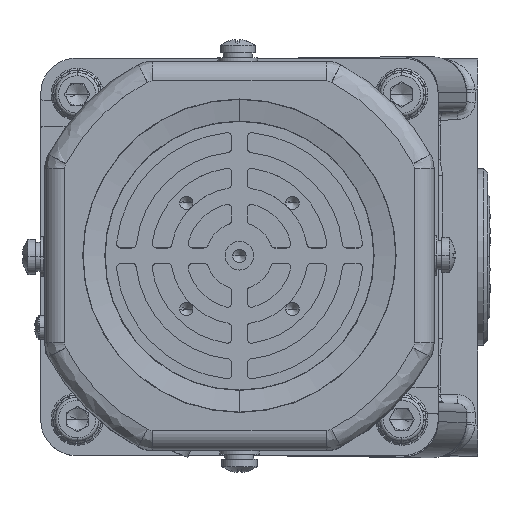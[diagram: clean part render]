
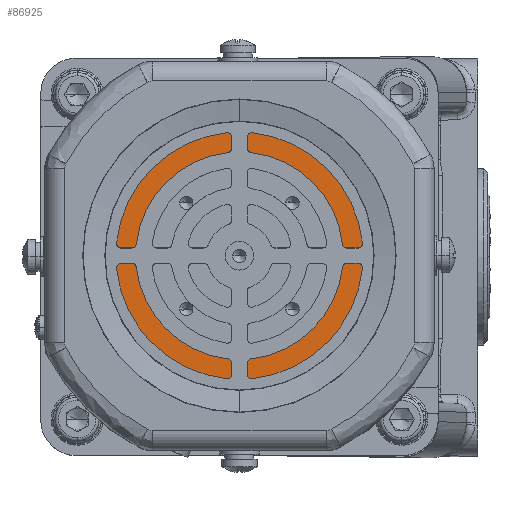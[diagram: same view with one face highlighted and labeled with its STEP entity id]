
A CAD part, top view. The second image highlights one B-rep face of the part: STEP entity #86925.
In plain terms, the highlighted planar face has unit normal (0, 0, 1) as drawn and (-1, 0, 0) by its records, which use the part's own axes.
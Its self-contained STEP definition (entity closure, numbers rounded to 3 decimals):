
#301 = AXIS2_PLACEMENT_3D ( 'NONE', #1428, #51409, #8697 ) ;
#409 = ORIENTED_EDGE ( 'NONE', *, *, #90431, .T. ) ;
#1428 = CARTESIAN_POINT ( 'NONE',  ( -36.344, -0.714, 161.806 ) ) ;
#3531 = DIRECTION ( 'NONE',  ( 0., 0., 1. ) ) ;
#4443 = AXIS2_PLACEMENT_3D ( 'NONE', #62787, #62691, #62671 ) ;
#4850 = EDGE_LOOP ( 'NONE', ( #409, #39343 ) ) ;
#5201 = CIRCLE ( 'NONE', #4443, 29. ) ;
#5522 = CIRCLE ( 'NONE', #38423, 22. ) ;
#6278 = CIRCLE ( 'NONE', #75331, 1.5 ) ;
#7408 = DIRECTION ( 'NONE',  ( 1., 0., 0. ) ) ;
#8697 = DIRECTION ( 'NONE',  ( 0., 0., 1. ) ) ;
#10301 = ORIENTED_EDGE ( 'NONE', *, *, #13909, .T. ) ;
#10705 = ORIENTED_EDGE ( 'NONE', *, *, #18131, .T. ) ;
#11975 = EDGE_CURVE ( 'NONE', #76945, #71509, #86737, .T. ) ;
#12759 = FACE_BOUND ( 'NONE', #4850, .T. ) ;
#13156 = ORIENTED_EDGE ( 'NONE', *, *, #62807, .T. ) ;
#13555 = ORIENTED_EDGE ( 'NONE', *, *, #11975, .T. ) ;
#13909 = EDGE_CURVE ( 'NONE', #71509, #76945, #5522, .T. ) ;
#13934 = AXIS2_PLACEMENT_3D ( 'NONE', #31997, #80778, #39127 ) ;
#14363 = AXIS2_PLACEMENT_3D ( 'NONE', #79809, #38100, #86529 ) ;
#14879 = CIRCLE ( 'NONE', #301, 1.5 ) ;
#16372 = AXIS2_PLACEMENT_3D ( 'NONE', #30078, #78981, #37243 ) ;
#18131 = EDGE_CURVE ( 'NONE', #85626, #30823, #5201, .T. ) ;
#30078 = CARTESIAN_POINT ( 'NONE',  ( -36.344, -0.714, 188.806 ) ) ;
#30823 = VERTEX_POINT ( 'NONE', #47908 ) ;
#31997 = CARTESIAN_POINT ( 'NONE',  ( -36.344, -0.714, 215.806 ) ) ;
#32202 = VERTEX_POINT ( 'NONE', #82992 ) ;
#34477 = VERTEX_POINT ( 'NONE', #51219 ) ;
#35717 = EDGE_LOOP ( 'NONE', ( #79970, #10705 ) ) ;
#35916 = CARTESIAN_POINT ( 'NONE',  ( -36.344, -0.714, 214.306 ) ) ;
#37243 = DIRECTION ( 'NONE',  ( 0., 0., 1. ) ) ;
#38100 = DIRECTION ( 'NONE',  ( -1., 0., 0. ) ) ;
#38423 = AXIS2_PLACEMENT_3D ( 'NONE', #63074, #62990, #62977 ) ;
#39127 = DIRECTION ( 'NONE',  ( 0., 0., 1. ) ) ;
#39343 = ORIENTED_EDGE ( 'NONE', *, *, #70560, .T. ) ;
#39634 = CARTESIAN_POINT ( 'NONE',  ( -36.344, -0.714, 166.806 ) ) ;
#42336 = CARTESIAN_POINT ( 'NONE',  ( -36.344, -0.714, 160.306 ) ) ;
#42489 = EDGE_LOOP ( 'NONE', ( #13156, #59617 ) ) ;
#44312 = EDGE_CURVE ( 'NONE', #77833, #34477, #6278, .T. ) ;
#46413 = DIRECTION ( 'NONE',  ( 1., 0., 0. ) ) ;
#47908 = CARTESIAN_POINT ( 'NONE',  ( -36.344, -0.714, 217.806 ) ) ;
#50169 = CARTESIAN_POINT ( 'NONE',  ( -36.344, -0.714, 215.806 ) ) ;
#50656 = FACE_BOUND ( 'NONE', #59101, .T. ) ;
#51219 = CARTESIAN_POINT ( 'NONE',  ( -36.344, -0.714, 163.306 ) ) ;
#51409 = DIRECTION ( 'NONE',  ( 1., 0., 0. ) ) ;
#53150 = CIRCLE ( 'NONE', #16372, 29. ) ;
#56748 = AXIS2_PLACEMENT_3D ( 'NONE', #87944, #87836, #87747 ) ;
#57227 = DIRECTION ( 'NONE',  ( 0., 0., 1. ) ) ;
#58772 = CARTESIAN_POINT ( 'NONE',  ( -36.344, -0.714, 159.806 ) ) ;
#59101 = EDGE_LOOP ( 'NONE', ( #13555, #10301 ) ) ;
#59617 = ORIENTED_EDGE ( 'NONE', *, *, #44312, .T. ) ;
#61633 = VERTEX_POINT ( 'NONE', #35916 ) ;
#62671 = DIRECTION ( 'NONE',  ( 0., 0., 1. ) ) ;
#62691 = DIRECTION ( 'NONE',  ( -1., 0., 0. ) ) ;
#62787 = CARTESIAN_POINT ( 'NONE',  ( -36.344, -0.714, 188.806 ) ) ;
#62807 = EDGE_CURVE ( 'NONE', #34477, #77833, #14879, .T. ) ;
#62977 = DIRECTION ( 'NONE',  ( 0., 0., 1. ) ) ;
#62990 = DIRECTION ( 'NONE',  ( 1., 0., 0. ) ) ;
#63074 = CARTESIAN_POINT ( 'NONE',  ( -36.344, -0.714, 188.806 ) ) ;
#64570 = CARTESIAN_POINT ( 'NONE',  ( -36.344, -0.714, 210.806 ) ) ;
#67127 = FACE_OUTER_BOUND ( 'NONE', #35717, .T. ) ;
#69311 = FACE_BOUND ( 'NONE', #42489, .T. ) ;
#70560 = EDGE_CURVE ( 'NONE', #61633, #32202, #76546, .T. ) ;
#71509 = VERTEX_POINT ( 'NONE', #39634 ) ;
#72932 = PLANE ( 'NONE',  #14363 ) ;
#74365 = CIRCLE ( 'NONE', #13934, 1.5 ) ;
#75331 = AXIS2_PLACEMENT_3D ( 'NONE', #87840, #46413, #3531 ) ;
#76546 = CIRCLE ( 'NONE', #77345, 1.5 ) ;
#76945 = VERTEX_POINT ( 'NONE', #64570 ) ;
#77345 = AXIS2_PLACEMENT_3D ( 'NONE', #50169, #7408, #57227 ) ;
#77417 = EDGE_CURVE ( 'NONE', #30823, #85626, #53150, .T. ) ;
#77833 = VERTEX_POINT ( 'NONE', #42336 ) ;
#78981 = DIRECTION ( 'NONE',  ( -1., 0., 0. ) ) ;
#79809 = CARTESIAN_POINT ( 'NONE',  ( -36.344, 21.286, 188.806 ) ) ;
#79970 = ORIENTED_EDGE ( 'NONE', *, *, #77417, .T. ) ;
#80778 = DIRECTION ( 'NONE',  ( 1., 0., 0. ) ) ;
#82992 = CARTESIAN_POINT ( 'NONE',  ( -36.344, -0.714, 217.306 ) ) ;
#85626 = VERTEX_POINT ( 'NONE', #58772 ) ;
#86529 = DIRECTION ( 'NONE',  ( 0., 0., 1. ) ) ;
#86737 = CIRCLE ( 'NONE', #56748, 22. ) ;
#86925 = ADVANCED_FACE ( 'NONE', ( #69311, #50656, #12759, #67127 ), #72932, .T. ) ;
#87747 = DIRECTION ( 'NONE',  ( 0., 0., 1. ) ) ;
#87836 = DIRECTION ( 'NONE',  ( 1., 0., 0. ) ) ;
#87840 = CARTESIAN_POINT ( 'NONE',  ( -36.344, -0.714, 161.806 ) ) ;
#87944 = CARTESIAN_POINT ( 'NONE',  ( -36.344, -0.714, 188.806 ) ) ;
#90431 = EDGE_CURVE ( 'NONE', #32202, #61633, #74365, .T. ) ;
